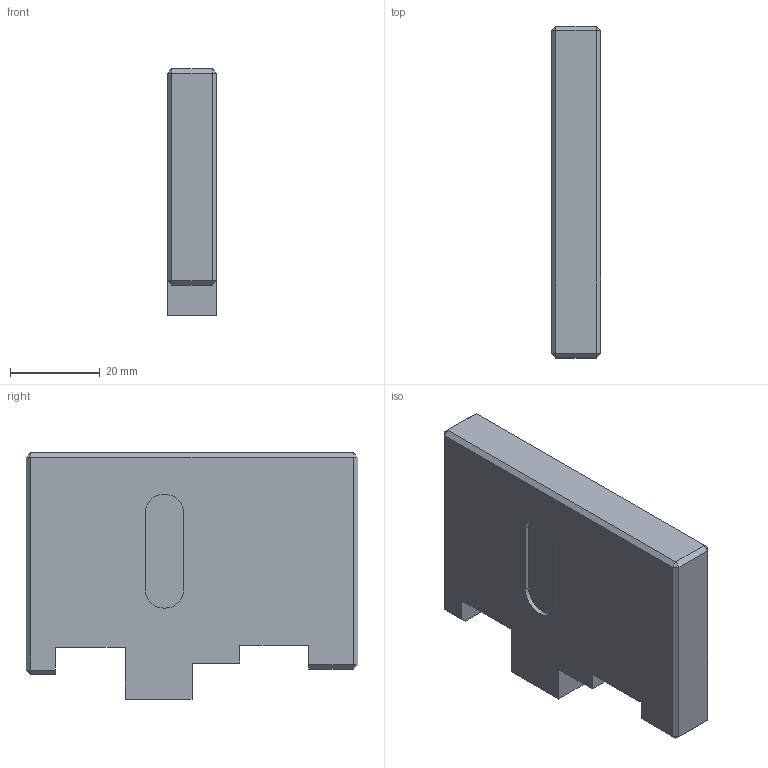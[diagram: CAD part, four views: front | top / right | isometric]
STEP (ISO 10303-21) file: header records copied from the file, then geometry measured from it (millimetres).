
FILE_DESCRIPTION(/* description */ (''),/* implementation_level */ '2;1');
FILE_NAME(/* name */ 'D:\CHINT2\NR2\Механическая блокировка NC1-09-32.stp',/* time_stamp */ '2017-11-15T20:31:35+03:00',/* author */ ('RSagdiev'),/* organization */ (''),/* preprocessor_version */ 'ST-DEVELOPER v16.5',/* originating_system */ 'Autodesk Inventor 2017',/* authorisation */ '');
FILE_SCHEMA (('AUTOMOTIVE_DESIGN { 1 0 10303 214 3 1 1 }'));
Length unit declared in the file: millimetre
Products named in the file (1): Механическая 
блокировка NC1-09-32
Bounding box: 11 x 74 x 55 mm (x, y, z)
Volume: 37980.7 mm3; surface area: 9974.3 mm2
Topology: 1 solids, 1 shells, 48 faces, 108 edges, 64 vertices
Faces by surface type: plane 44, cylinder 4
Entity records: 1319 total; most frequent: CARTESIAN_POINT 221, ORIENTED_EDGE 216, DIRECTION 214, EDGE_CURVE 108, LINE 100, VECTOR 100, VERTEX_POINT 64, AXIS2_PLACEMENT_3D 57
